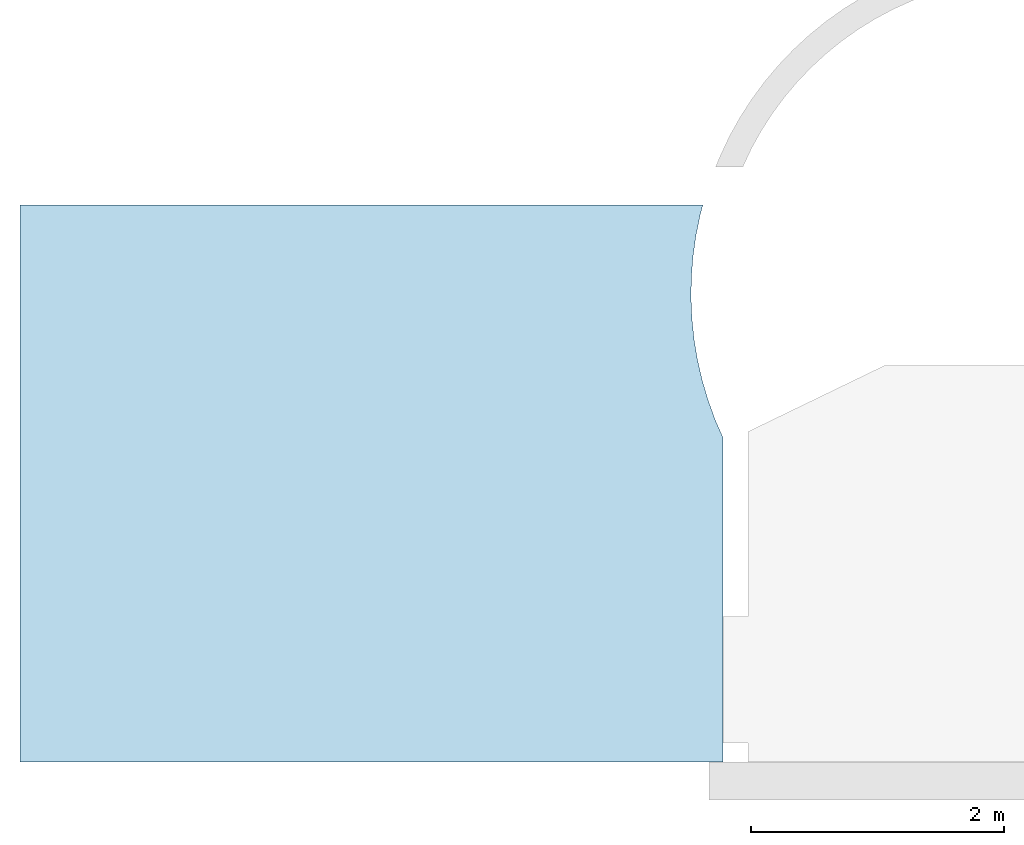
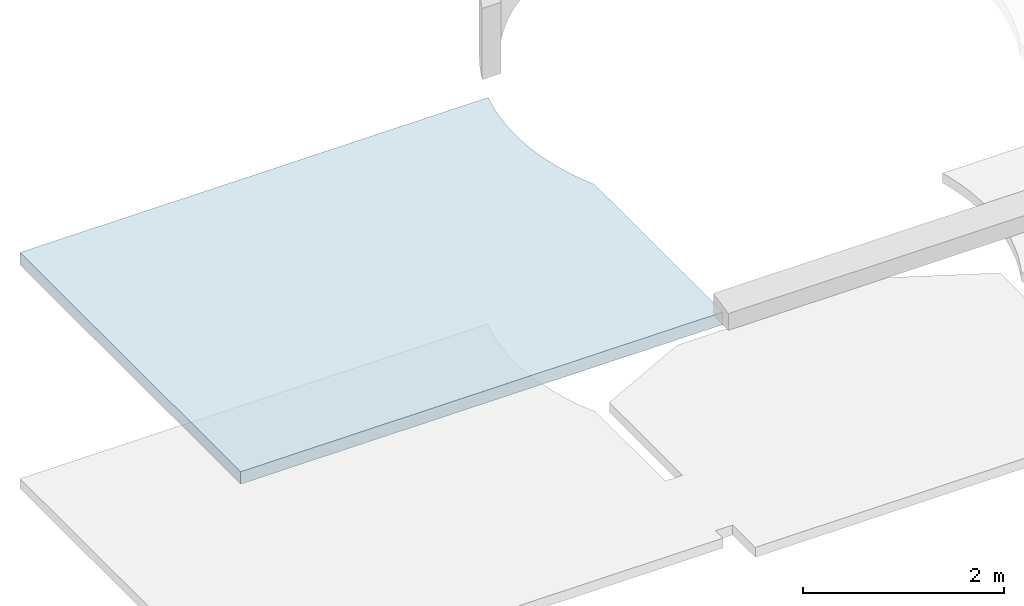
# One storey, part 2 of 5: 1 slab.
"""IFC4 building model written with IfcOpenShell, lengths in millimetres."""

from ifc_helpers import new_model, entity, si_unit, converted_unit, derived_unit, direction, frame, origin_with_axes, place, context, subcontext, project, spatial, polygons, material, constituent, constituent_set, type_object, element, save


model = new_model("IFC4")

# Units and contexts
model_context = context("Model", 3, precision=0.01, world=origin_with_axes(), true_north=direction((0.0, 1.0)))
body_context = subcontext(model_context, "Body", "Model", "MODEL_VIEW")
ifc_project = project(units=[si_unit("LENGTHUNIT", "METRE", prefix="MILLI"), si_unit("AREAUNIT", "SQUARE_METRE"), si_unit("VOLUMEUNIT", "CUBIC_METRE"), converted_unit("PLANEANGLEUNIT", "DEGREE", entity("IfcPlaneAngleMeasure", 0.0174532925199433), si_unit("PLANEANGLEUNIT", "RADIAN"), dimensions=[0, 0, 0, 0, 0, 0, 0]), converted_unit("TIMEUNIT", "Year", entity("IfcTimeMeasure", 31557600.0), si_unit("TIMEUNIT", "SECOND"), dimensions=[0, 0, 1, 0, 0, 0, 0]), si_unit("MASSUNIT", "GRAM", prefix="KILO"), si_unit("THERMODYNAMICTEMPERATUREUNIT", "DEGREE_CELSIUS"), si_unit("LUMINOUSINTENSITYUNIT", "LUMEN"), si_unit("ENERGYUNIT", "JOULE", prefix="MEGA"), derived_unit("THERMALCONDUCTANCEUNIT", [(si_unit("POWERUNIT", "WATT"), 1), (si_unit("LENGTHUNIT", "METRE"), -1), (si_unit("THERMODYNAMICTEMPERATUREUNIT", "KELVIN"), -1)]), derived_unit("SPECIFICHEATCAPACITYUNIT", [(si_unit("ENERGYUNIT", "JOULE"), 1), (si_unit("MASSUNIT", "GRAM", prefix="KILO"), -1), (si_unit("THERMODYNAMICTEMPERATUREUNIT", "KELVIN"), -1)]), derived_unit("MASSDENSITYUNIT", [(si_unit("MASSUNIT", "GRAM", prefix="KILO"), 1), (si_unit("VOLUMEUNIT", "CUBIC_METRE"), -1)])], contexts=[model_context])

# Site, building, storey
site_placement = place(None, origin_with_axes())
site = spatial("IfcSite", under=ifc_project, at=site_placement, Name="Exteriér", CompositionType="ELEMENT")
building_placement = place(site_placement, origin_with_axes())
building = spatial("IfcBuilding", under=site, at=building_placement, Name="Univerzitní lezecké centrum", CompositionType="ELEMENT")
storey_placement = place(building_placement, frame((0.0, 0.0, 9600.000000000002), z_axis=(0.0, 0.0, 1.0), x_axis=(1.0, 0.0, 0.0)))
storey = spatial("IfcBuildingStorey", under=building, at=storey_placement, Name="4.NP", CompositionType="ELEMENT", Elevation=9600.0)

# Slab
ifc_material_1 = material(Name="SDK - UA profil nosný 50")
ifc_constituent_1 = constituent(ifc_material_1, Name="SDK - UA profil nosný 50")
ifc_material_2 = material(Name="SDK - R-CD profil montážní")
ifc_constituent_2 = constituent(ifc_material_2, Name="SDK - R-CD profil montážní")
ifc_material_3 = material(Name="Sádrokarton - protipožární spodní")
ifc_constituent_3 = constituent(ifc_material_3, Name="Sádrokarton - protipožární spodní")
ifc_material_4 = material(Name="Sádrokarton - protipožární vrchní")
ifc_constituent_4 = constituent(ifc_material_4, Name="Sádrokarton - protipožární vrchní")
ifc_constituent_set = constituent_set(constituents=[ifc_constituent_1, ifc_constituent_2, ifc_constituent_3, ifc_constituent_4], Name="!SDK - protipožární")
slab_type = type_object("IfcSlabType", Name="!SDK - protipožární 152", PredefinedType="FLOOR")
slab_placement = place(storey_placement, frame((-5550.148351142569, 0.0, 2752.0), z_axis=(0.0, 0.0, 1.0), x_axis=(1.0, 0.0, 0.0)))
element("IfcSlab", 1, at=slab_placement, inside=storey, type_object=slab_type, material=ifc_constituent_set, Name="Pdh02", PredefinedType="FLOOR", context=body_context, shape_type="Tessellation", body=[
    polygons([(5549.902211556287, 0.0, -99.99999999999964), (5549.902211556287, 0.0, 0.0), (0.0, 0.0, 0.0), (0.0, 0.0, -99.99999999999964), (5549.654347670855, 2565.534320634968, -99.99999999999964), (5549.654347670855, 2565.534320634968, 0.0), (5489.456697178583, 2702.405752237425, 0.0), (5433.308623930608, 2857.298997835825, 0.0), (5386.707895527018, 3015.327146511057, 0.0), (5349.82786973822, 3175.902323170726, 0.0), (5322.805742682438, 3338.427177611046, 0.0), (5305.742038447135, 3502.297106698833, 0.0), (5298.700235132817, 3666.902503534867, 0.0), (5301.70652871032, 3831.631025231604, 0.0), (5314.74973557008, 3995.869870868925, 0.0), (5337.781334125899, 4159.008061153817, 0.0), (5370.71564531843, 4320.438711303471, 0.0), (5392.072898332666, 4399.999999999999, 0.0), (0.0, 4399.999999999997, 0.0), (0.0, 4399.999999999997, -99.99999999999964), (5392.072898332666, 4399.999999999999, -99.99999999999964), (5370.71564531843, 4320.438711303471, -99.99999999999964), (5337.781334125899, 4159.008061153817, -99.99999999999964), (5314.74973557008, 3995.869870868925, -99.99999999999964), (5301.70652871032, 3831.631025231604, -99.99999999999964), (5298.700235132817, 3666.902503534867, -99.99999999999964), (5305.742038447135, 3502.297106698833, -99.99999999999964), (5322.805742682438, 3338.427177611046, -99.99999999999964), (5349.82786973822, 3175.902323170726, -99.99999999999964), (5386.707895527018, 3015.327146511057, -99.99999999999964), (5433.308623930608, 2857.298997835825, -99.99999999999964), (5489.456697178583, 2702.405752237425, -99.99999999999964)], [[[1, 2, 3, 4]], [[5, 6, 2, 1]], [[3, 2, 6, 7, 8, 9, 10, 11, 12, 13, 14, 15, 16, 17, 18, 19]], [[4, 3, 19, 20]], [[4, 20, 21, 22, 23, 24, 25, 26, 27, 28, 29, 30, 31, 32, 5, 1]], [[32, 7, 6, 5]], [[31, 8, 7, 32]], [[30, 9, 8, 31]], [[29, 10, 9, 30]], [[28, 11, 10, 29]], [[27, 12, 11, 28]], [[26, 13, 12, 27]], [[25, 14, 13, 26]], [[24, 15, 14, 25]], [[23, 16, 15, 24]], [[22, 17, 16, 23]], [[21, 18, 17, 22]], [[20, 19, 18, 21]]], closed=True),
    polygons([(5549.902211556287, 0.0, -126.9999999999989), (5549.902211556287, 0.0, -99.99999999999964), (0.0, 0.0, -99.99999999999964), (0.0, 0.0, -126.9999999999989), (5549.654347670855, 2565.534320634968, -126.9999999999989), (5549.654347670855, 2565.534320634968, -99.99999999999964), (5489.456697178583, 2702.405752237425, -99.99999999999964), (5433.308623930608, 2857.298997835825, -99.99999999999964), (5386.707895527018, 3015.327146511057, -99.99999999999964), (5349.82786973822, 3175.902323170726, -99.99999999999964), (5322.805742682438, 3338.427177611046, -99.99999999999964), (5305.742038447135, 3502.297106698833, -99.99999999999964), (5298.700235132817, 3666.902503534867, -99.99999999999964), (5301.70652871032, 3831.631025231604, -99.99999999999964), (5314.74973557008, 3995.869870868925, -99.99999999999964), (5337.781334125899, 4159.008061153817, -99.99999999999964), (5370.71564531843, 4320.438711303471, -99.99999999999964), (5392.072898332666, 4399.999999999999, -99.99999999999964), (0.0, 4399.999999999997, -99.99999999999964), (0.0, 4399.999999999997, -126.9999999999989), (5392.072898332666, 4399.999999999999, -126.9999999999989), (5370.71564531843, 4320.438711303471, -126.9999999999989), (5337.781334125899, 4159.008061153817, -126.9999999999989), (5314.74973557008, 3995.869870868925, -126.9999999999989), (5301.70652871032, 3831.631025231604, -126.9999999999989), (5298.700235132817, 3666.902503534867, -126.9999999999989), (5305.742038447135, 3502.297106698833, -126.9999999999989), (5322.805742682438, 3338.427177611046, -126.9999999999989), (5349.82786973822, 3175.902323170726, -126.9999999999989), (5386.707895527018, 3015.327146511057, -126.9999999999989), (5433.308623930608, 2857.298997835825, -126.9999999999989), (5489.456697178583, 2702.405752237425, -126.9999999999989)], [[[1, 2, 3, 4]], [[5, 6, 2, 1]], [[3, 2, 6, 7, 8, 9, 10, 11, 12, 13, 14, 15, 16, 17, 18, 19]], [[4, 3, 19, 20]], [[4, 20, 21, 22, 23, 24, 25, 26, 27, 28, 29, 30, 31, 32, 5, 1]], [[32, 7, 6, 5]], [[31, 8, 7, 32]], [[30, 9, 8, 31]], [[29, 10, 9, 30]], [[28, 11, 10, 29]], [[27, 12, 11, 28]], [[26, 13, 12, 27]], [[25, 14, 13, 26]], [[24, 15, 14, 25]], [[23, 16, 15, 24]], [[22, 17, 16, 23]], [[21, 18, 17, 22]], [[20, 19, 18, 21]]], closed=True),
    polygons([(5549.902211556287, 0.0, -139.0000000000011), (5549.902211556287, 0.0, -127.0000000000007), (0.0, 0.0, -127.0000000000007), (0.0, 0.0, -139.0000000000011), (5549.654347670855, 2565.534320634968, -139.0000000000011), (5549.654347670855, 2565.534320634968, -127.0000000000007), (5489.456697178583, 2702.405752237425, -127.0000000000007), (5433.308623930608, 2857.298997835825, -127.0000000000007), (5386.707895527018, 3015.327146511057, -127.0000000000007), (5349.82786973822, 3175.902323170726, -127.0000000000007), (5322.805742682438, 3338.427177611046, -127.0000000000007), (5305.742038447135, 3502.297106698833, -127.0000000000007), (5298.700235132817, 3666.902503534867, -127.0000000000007), (5301.70652871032, 3831.631025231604, -127.0000000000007), (5314.74973557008, 3995.869870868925, -127.0000000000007), (5337.781334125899, 4159.008061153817, -127.0000000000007), (5370.71564531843, 4320.438711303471, -127.0000000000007), (5392.072898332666, 4399.999999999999, -127.0000000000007), (0.0, 4399.999999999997, -127.0000000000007), (0.0, 4399.999999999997, -139.0000000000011), (5392.072898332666, 4399.999999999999, -139.0000000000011), (5370.71564531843, 4320.438711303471, -139.0000000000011), (5337.781334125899, 4159.008061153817, -139.0000000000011), (5314.74973557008, 3995.869870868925, -139.0000000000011), (5301.70652871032, 3831.631025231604, -139.0000000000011), (5298.700235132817, 3666.902503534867, -139.0000000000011), (5305.742038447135, 3502.297106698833, -139.0000000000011), (5322.805742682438, 3338.427177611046, -139.0000000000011), (5349.82786973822, 3175.902323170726, -139.0000000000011), (5386.707895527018, 3015.327146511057, -139.0000000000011), (5433.308623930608, 2857.298997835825, -139.0000000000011), (5489.456697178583, 2702.405752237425, -139.0000000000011)], [[[1, 2, 3, 4]], [[5, 6, 2, 1]], [[3, 2, 6, 7, 8, 9, 10, 11, 12, 13, 14, 15, 16, 17, 18, 19]], [[4, 3, 19, 20]], [[4, 20, 21, 22, 23, 24, 25, 26, 27, 28, 29, 30, 31, 32, 5, 1]], [[32, 7, 6, 5]], [[31, 8, 7, 32]], [[30, 9, 8, 31]], [[29, 10, 9, 30]], [[28, 11, 10, 29]], [[27, 12, 11, 28]], [[26, 13, 12, 27]], [[25, 14, 13, 26]], [[24, 15, 14, 25]], [[23, 16, 15, 24]], [[22, 17, 16, 23]], [[21, 18, 17, 22]], [[20, 19, 18, 21]]], closed=True),
    polygons([(0.0, 0.0, -151.9999999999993), (5549.902211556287, 0.0, -151.9999999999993), (5549.902211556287, 0.0, -138.9999999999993), (0.0, 0.0, -138.9999999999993), (0.0, 4399.999999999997, -151.9999999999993), (5392.072898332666, 4399.999999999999, -151.9999999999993), (5370.71564531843, 4320.438711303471, -151.9999999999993), (5337.781334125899, 4159.008061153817, -151.9999999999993), (5314.74973557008, 3995.869870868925, -151.9999999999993), (5301.70652871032, 3831.631025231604, -151.9999999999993), (5298.700235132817, 3666.902503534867, -151.9999999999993), (5305.742038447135, 3502.297106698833, -151.9999999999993), (5322.805742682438, 3338.427177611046, -151.9999999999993), (5349.82786973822, 3175.902323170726, -151.9999999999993), (5386.707895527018, 3015.327146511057, -151.9999999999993), (5433.308623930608, 2857.298997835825, -151.9999999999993), (5489.456697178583, 2702.405752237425, -151.9999999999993), (5549.654347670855, 2565.534320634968, -151.9999999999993), (5549.654347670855, 2565.534320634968, -138.9999999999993), (5489.456697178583, 2702.405752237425, -138.9999999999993), (5433.308623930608, 2857.298997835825, -138.9999999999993), (5386.707895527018, 3015.327146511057, -138.9999999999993), (5349.82786973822, 3175.902323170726, -138.9999999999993), (5322.805742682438, 3338.427177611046, -138.9999999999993), (5305.742038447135, 3502.297106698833, -138.9999999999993), (5298.700235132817, 3666.902503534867, -138.9999999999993), (5301.70652871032, 3831.631025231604, -138.9999999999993), (5314.74973557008, 3995.869870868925, -138.9999999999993), (5337.781334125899, 4159.008061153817, -138.9999999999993), (5370.71564531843, 4320.438711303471, -138.9999999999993), (5392.072898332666, 4399.999999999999, -138.9999999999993), (0.0, 4399.999999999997, -138.9999999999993)], [[[1, 2, 3, 4]], [[1, 5, 6, 7, 8, 9, 10, 11, 12, 13, 14, 15, 16, 17, 18, 2]], [[2, 18, 19, 3]], [[4, 3, 19, 20, 21, 22, 23, 24, 25, 26, 27, 28, 29, 30, 31, 32]], [[5, 1, 4, 32]], [[6, 5, 32, 31]], [[7, 6, 31, 30]], [[8, 7, 30, 29]], [[9, 8, 29, 28]], [[10, 9, 28, 27]], [[11, 10, 27, 26]], [[12, 11, 26, 25]], [[13, 12, 25, 24]], [[14, 13, 24, 23]], [[15, 14, 23, 22]], [[16, 15, 22, 21]], [[17, 16, 21, 20]], [[18, 17, 20, 19]]], closed=True),
])

save(model, "model.ifc")
